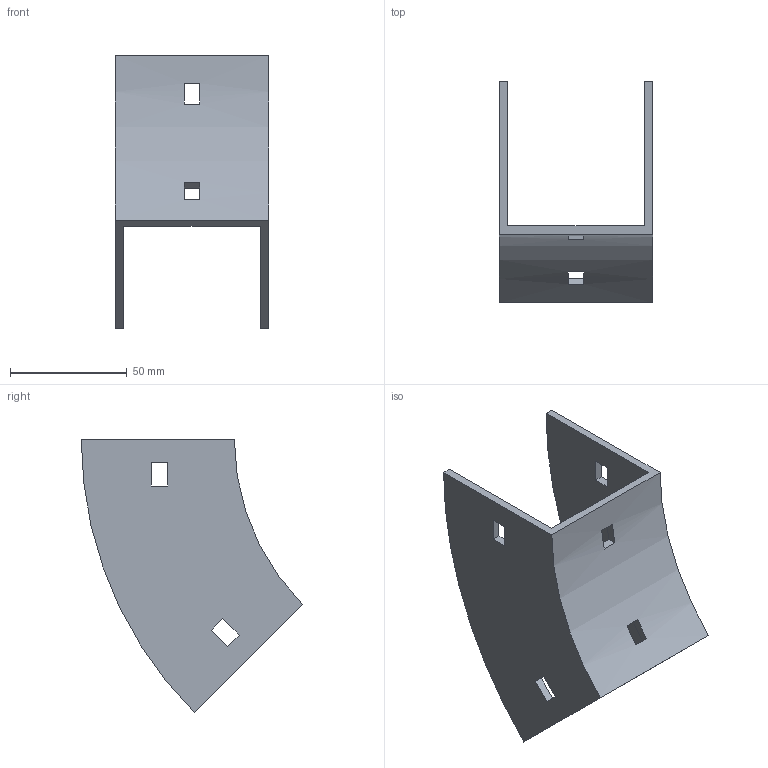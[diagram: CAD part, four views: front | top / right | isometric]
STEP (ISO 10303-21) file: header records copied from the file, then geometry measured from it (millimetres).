
FILE_DESCRIPTION (( 'STEP AP214' ), '1' );
FILE_NAME ('34B1H065.step', '2025-02-21T09:28:40', ( '' ), ( '' ), 'SwSTEP 2.0', 'SolidWorks 2023', '' );
FILE_SCHEMA (( 'AUTOMOTIVE_DESIGN' ));
Length unit declared in the file: millimetre
Products named in the file (1): 34B1H065
Bounding box: 65.5 x 94.79 x 117.03 mm (x, y, z)
Volume: 62771.2 mm3; surface area: 38792.1 mm2
Topology: 1 solids, 1 shells, 34 faces, 96 edges, 64 vertices
Faces by surface type: plane 30, cylinder 4
Entity records: 1143 total; most frequent: CARTESIAN_POINT 195, ORIENTED_EDGE 192, DIRECTION 182, EDGE_CURVE 96, LINE 80, VECTOR 80, VERTEX_POINT 64, AXIS2_PLACEMENT_3D 51
